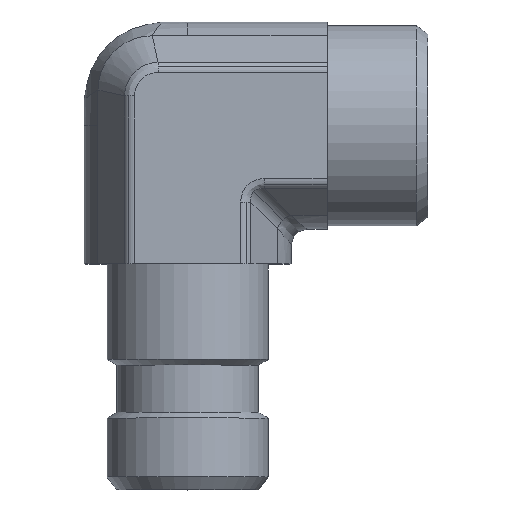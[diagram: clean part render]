
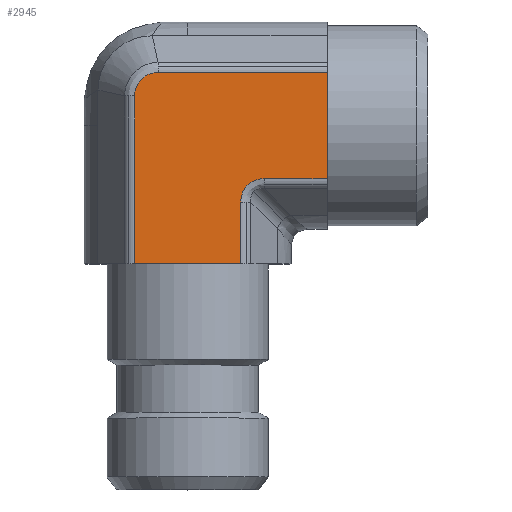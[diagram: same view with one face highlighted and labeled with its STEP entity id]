
A CAD part, top view. The second image highlights one B-rep face of the part: STEP entity #2945.
In plain terms, the highlighted planar face has unit normal (0, 0, 1) as drawn and (0, -1, 0) by its records, which use the part's own axes.
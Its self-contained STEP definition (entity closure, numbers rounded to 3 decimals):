
#319=CARTESIAN_POINT('',(5.387,-13.375,6.856));
#320=VERTEX_POINT('',#319);
#328=CARTESIAN_POINT('',(13.35,-13.375,6.856));
#329=VERTEX_POINT('',#328);
#330=CARTESIAN_POINT('',(5.387,-13.375,6.856));
#331=DIRECTION('',(1.0,0.0,0.0));
#332=VECTOR('',#331,7.963);
#333=LINE('',#330,#332);
#334=EDGE_CURVE('',#320,#329,#333,.T.);
#443=CARTESIAN_POINT('',(-11.356,-13.375,-3.819));
#444=VERTEX_POINT('',#443);
#452=CARTESIAN_POINT('',(-11.356,-13.375,18.0));
#453=VERTEX_POINT('',#452);
#454=CARTESIAN_POINT('',(-11.356,-13.375,-3.819));
#455=DIRECTION('',(0.0,0.0,1.0));
#456=VECTOR('',#455,21.819);
#457=LINE('',#454,#456);
#458=EDGE_CURVE('',#444,#453,#457,.T.);
#1737=CARTESIAN_POINT('',(13.35,-13.375,-6.856));
#1738=VERTEX_POINT('',#1737);
#1739=CARTESIAN_POINT('',(13.35,-13.375,-6.856));
#1740=DIRECTION('',(0.0,0.0,1.0));
#1741=VECTOR('',#1740,13.712);
#1742=LINE('',#1739,#1741);
#1743=EDGE_CURVE('',#1738,#329,#1742,.T.);
#2060=CARTESIAN_POINT('',(2.356,-13.375,18.0));
#2061=VERTEX_POINT('',#2060);
#2062=CARTESIAN_POINT('',(2.356,-13.375,18.0));
#2063=DIRECTION('',(-1.0,0.0,0.0));
#2064=VECTOR('',#2063,13.712);
#2065=LINE('',#2062,#2064);
#2066=EDGE_CURVE('',#2061,#453,#2065,.T.);
#2581=CARTESIAN_POINT('',(-8.319,-13.375,-6.856));
#2582=VERTEX_POINT('',#2581);
#2590=CARTESIAN_POINT('',(-11.356,-13.375,-3.819));
#2591=CARTESIAN_POINT('',(-11.356,-13.375,-4.016));
#2592=CARTESIAN_POINT('',(-11.336,-13.375,-4.216));
#2593=CARTESIAN_POINT('',(-11.235,-13.375,-4.725));
#2594=CARTESIAN_POINT('',(-11.123,-13.375,-5.025));
#2595=CARTESIAN_POINT('',(-10.717,-13.375,-5.748));
#2596=CARTESIAN_POINT('',(-10.355,-13.375,-6.127));
#2597=CARTESIAN_POINT('',(-9.441,-13.375,-6.697));
#2598=CARTESIAN_POINT('',(-8.88,-13.375,-6.856));
#2599=CARTESIAN_POINT('',(-8.319,-13.375,-6.856));
#2600=B_SPLINE_CURVE_WITH_KNOTS('',3,(#2590,#2591,#2592,#2593,#2594,#2595,#2596,#2597,#2598,#2599),.UNSPECIFIED.,.F.,.U.,(4,2,2,2,4),(-4.746,-4.152,-3.203,-1.685,0.0),.UNSPECIFIED.);
#2601=EDGE_CURVE('',#2582,#444,#2600,.F.);
#2628=CARTESIAN_POINT('',(13.35,-13.375,-6.856));
#2629=DIRECTION('',(-1.0,0.0,0.0));
#2630=VECTOR('',#2629,21.669);
#2631=LINE('',#2628,#2630);
#2632=EDGE_CURVE('',#1738,#2582,#2631,.T.);
#2764=CARTESIAN_POINT('',(2.356,-13.375,9.887));
#2765=VERTEX_POINT('',#2764);
#2766=CARTESIAN_POINT('',(2.356,-13.375,18.0));
#2767=DIRECTION('',(0.0,0.0,-1.0));
#2768=VECTOR('',#2767,8.113);
#2769=LINE('',#2766,#2768);
#2770=EDGE_CURVE('',#2061,#2765,#2769,.T.);
#2903=CARTESIAN_POINT('',(6.397,-13.375,10.897));
#2904=DIRECTION('',(0.,-1.0,0.));
#2905=DIRECTION('',(-0.707,0.,-0.707));
#2906=AXIS2_PLACEMENT_3D('',#2903,#2904,#2905);
#2907=ELLIPSE('',#2906,4.518,3.5);
#2908=EDGE_CURVE('',#2765,#320,#2907,.T.);
#2930=CARTESIAN_POINT('',(-4.5,-13.375,-3.175));
#2931=DIRECTION('',(0.0,-1.0,0.0));
#2932=DIRECTION('',(0.0,0.0,-1.0));
#2933=AXIS2_PLACEMENT_3D('',#2930,#2931,#2932);
#2934=PLANE('',#2933);
#2935=ORIENTED_EDGE('',*,*,#1743,.T.);
#2936=ORIENTED_EDGE('',*,*,#334,.F.);
#2937=ORIENTED_EDGE('',*,*,#2908,.F.);
#2938=ORIENTED_EDGE('',*,*,#2770,.F.);
#2939=ORIENTED_EDGE('',*,*,#2066,.T.);
#2940=ORIENTED_EDGE('',*,*,#458,.F.);
#2941=ORIENTED_EDGE('',*,*,#2601,.F.);
#2942=ORIENTED_EDGE('',*,*,#2632,.F.);
#2943=EDGE_LOOP('',(#2935,#2936,#2937,#2938,#2939,#2940,#2941,#2942));
#2944=FACE_OUTER_BOUND('',#2943,.T.);
#2945=ADVANCED_FACE('',(#2944),#2934,.T.);
